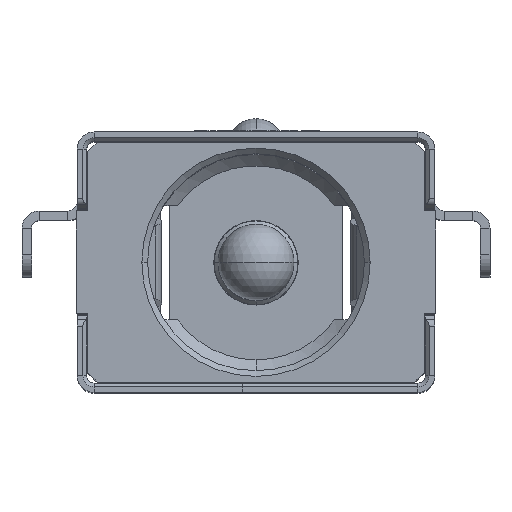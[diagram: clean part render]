
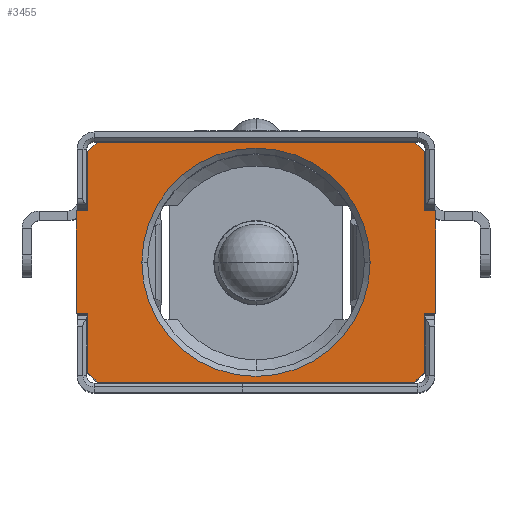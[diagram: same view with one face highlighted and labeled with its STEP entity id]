
A CAD part, top view. The second image highlights one B-rep face of the part: STEP entity #3455.
In plain terms, the highlighted planar face has unit normal (0, 0, 1).
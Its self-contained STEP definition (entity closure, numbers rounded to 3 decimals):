
#40 = ORIENTED_EDGE ( 'NONE', *, *, #15335, .T. ) ;
#94 = EDGE_CURVE ( 'NONE', #30638, #22297, #19277, .T. ) ;
#254 = VERTEX_POINT ( 'NONE', #4378 ) ;
#357 = LINE ( 'NONE', #20407, #6250 ) ;
#373 = LINE ( 'NONE', #10243, #12776 ) ;
#882 = DIRECTION ( 'NONE',  ( 0.707, 0.707, 0. ) ) ;
#982 = VERTEX_POINT ( 'NONE', #28700 ) ;
#987 = AXIS2_PLACEMENT_3D ( 'NONE', #3470, #11298, #21666 ) ;
#1904 = DIRECTION ( 'NONE',  ( 0., 1., 0. ) ) ;
#2126 = EDGE_LOOP ( 'NONE', ( #6789, #19782, #8268, #19825, #40, #32366, #32321, #19603, #28429, #18277, #29260, #10425, #30651, #3118, #8567, #9867 ) ) ;
#2374 = CARTESIAN_POINT ( 'NONE',  ( -4.725, 1.35, 14. ) ) ;
#2433 = EDGE_CURVE ( 'NONE', #25788, #18844, #21696, .T. ) ;
#2532 = EDGE_CURVE ( 'NONE', #31965, #2554, #9292, .T. ) ;
#2554 = VERTEX_POINT ( 'NONE', #33221 ) ;
#2932 = EDGE_CURVE ( 'NONE', #22374, #18844, #373, .T. ) ;
#3090 = CARTESIAN_POINT ( 'NONE',  ( 4.425, -1.35, 14. ) ) ;
#3118 = ORIENTED_EDGE ( 'NONE', *, *, #2433, .F. ) ;
#3455 = ADVANCED_FACE ( 'NONE', ( #5663, #13799 ), #5320, .T. ) ;
#3470 = CARTESIAN_POINT ( 'NONE',  ( 0., 0., 14. ) ) ;
#3512 = DIRECTION ( 'NONE',  ( 1., 0., 0. ) ) ;
#3612 = VECTOR ( 'NONE', #15708, 1000. ) ;
#3723 = VECTOR ( 'NONE', #26004, 1000. ) ;
#4005 = CARTESIAN_POINT ( 'NONE',  ( 0., 0., 14. ) ) ;
#4274 = DIRECTION ( 'NONE',  ( 0., 0., 1. ) ) ;
#4378 = CARTESIAN_POINT ( 'NONE',  ( 4.425, -2.9, 14. ) ) ;
#4568 = CARTESIAN_POINT ( 'NONE',  ( 4.425, 2.9, 14. ) ) ;
#4573 = EDGE_CURVE ( 'NONE', #16739, #32524, #28638, .T. ) ;
#4800 = CARTESIAN_POINT ( 'NONE',  ( -4.425, -2.9, 14. ) ) ;
#5002 = LINE ( 'NONE', #30649, #6223 ) ;
#5047 = CARTESIAN_POINT ( 'NONE',  ( -4.425, 1.35, 14. ) ) ;
#5054 = VERTEX_POINT ( 'NONE', #15587 ) ;
#5095 = CARTESIAN_POINT ( 'NONE',  ( 4.425, 1.35, 14. ) ) ;
#5320 = PLANE ( 'NONE',  #8480 ) ;
#5367 = CARTESIAN_POINT ( 'NONE',  ( 4.725, -1.35, 14. ) ) ;
#5663 = FACE_BOUND ( 'NONE', #7406, .T. ) ;
#6160 = DIRECTION ( 'NONE',  ( 1., 0., 0. ) ) ;
#6223 = VECTOR ( 'NONE', #10266, 1000. ) ;
#6241 = DIRECTION ( 'NONE',  ( 0.707, -0.707, 0. ) ) ;
#6250 = VECTOR ( 'NONE', #30943, 1000. ) ;
#6276 = AXIS2_PLACEMENT_3D ( 'NONE', #4005, #24743, #8966 ) ;
#6789 = ORIENTED_EDGE ( 'NONE', *, *, #33633, .T. ) ;
#7336 = VERTEX_POINT ( 'NONE', #12091 ) ;
#7406 = EDGE_LOOP ( 'NONE', ( #8770, #16741 ) ) ;
#7778 = VECTOR ( 'NONE', #1904, 1000. ) ;
#8268 = ORIENTED_EDGE ( 'NONE', *, *, #18388, .T. ) ;
#8480 = AXIS2_PLACEMENT_3D ( 'NONE', #9385, #4274, #6160 ) ;
#8567 = ORIENTED_EDGE ( 'NONE', *, *, #14643, .T. ) ;
#8770 = ORIENTED_EDGE ( 'NONE', *, *, #17867, .F. ) ;
#8966 = DIRECTION ( 'NONE',  ( -1., 0., 0. ) ) ;
#9051 = CARTESIAN_POINT ( 'NONE',  ( 4.725, 1.35, 14. ) ) ;
#9089 = VECTOR ( 'NONE', #10005, 1000. ) ;
#9292 = LINE ( 'NONE', #12492, #33289 ) ;
#9385 = CARTESIAN_POINT ( 'NONE',  ( 0., 0., 14. ) ) ;
#9491 = VECTOR ( 'NONE', #20427, 1000. ) ;
#9552 = CARTESIAN_POINT ( 'NONE',  ( 3., 0., 14. ) ) ;
#9568 = VERTEX_POINT ( 'NONE', #30703 ) ;
#9867 = ORIENTED_EDGE ( 'NONE', *, *, #22139, .F. ) ;
#10005 = DIRECTION ( 'NONE',  ( -0.707, 0.707, 0. ) ) ;
#10044 = CARTESIAN_POINT ( 'NONE',  ( -4.175, -3.15, 14. ) ) ;
#10243 = CARTESIAN_POINT ( 'NONE',  ( 4.425, 1.35, 14. ) ) ;
#10266 = DIRECTION ( 'NONE',  ( 1., 0., 0. ) ) ;
#10425 = ORIENTED_EDGE ( 'NONE', *, *, #10616, .T. ) ;
#10511 = VERTEX_POINT ( 'NONE', #4800 ) ;
#10616 = EDGE_CURVE ( 'NONE', #32524, #22374, #14990, .T. ) ;
#10702 = EDGE_CURVE ( 'NONE', #7336, #16739, #18561, .T. ) ;
#11298 = DIRECTION ( 'NONE',  ( 0., 0., 1. ) ) ;
#11953 = CARTESIAN_POINT ( 'NONE',  ( 4.425, -2.9, 14. ) ) ;
#12091 = CARTESIAN_POINT ( 'NONE',  ( 4.425, -1.35, 14. ) ) ;
#12139 = VERTEX_POINT ( 'NONE', #10044 ) ;
#12405 = EDGE_CURVE ( 'NONE', #12139, #10511, #15074, .T. ) ;
#12492 = CARTESIAN_POINT ( 'NONE',  ( -4.425, 1.35, 14. ) ) ;
#12724 = LINE ( 'NONE', #26804, #28422 ) ;
#12776 = VECTOR ( 'NONE', #31125, 1000. ) ;
#13124 = VECTOR ( 'NONE', #3512, 1000. ) ;
#13131 = DIRECTION ( 'NONE',  ( -1., 0., 0. ) ) ;
#13799 = FACE_OUTER_BOUND ( 'NONE', #2126, .T. ) ;
#14131 = CARTESIAN_POINT ( 'NONE',  ( -4.425, 2.9, 14. ) ) ;
#14209 = CARTESIAN_POINT ( 'NONE',  ( -3., 0., 14. ) ) ;
#14643 = EDGE_CURVE ( 'NONE', #25788, #19060, #12724, .T. ) ;
#14990 = LINE ( 'NONE', #26038, #19269 ) ;
#15074 = LINE ( 'NONE', #33272, #9089 ) ;
#15082 = CIRCLE ( 'NONE', #987, 3. ) ;
#15154 = LINE ( 'NONE', #22982, #9491 ) ;
#15335 = EDGE_CURVE ( 'NONE', #5054, #10511, #357, .T. ) ;
#15587 = CARTESIAN_POINT ( 'NONE',  ( -4.425, -1.35, 14. ) ) ;
#15708 = DIRECTION ( 'NONE',  ( 0., 1., 0. ) ) ;
#16456 = EDGE_CURVE ( 'NONE', #254, #9568, #28108, .T. ) ;
#16498 = EDGE_CURVE ( 'NONE', #28844, #5054, #5002, .T. ) ;
#16739 = VERTEX_POINT ( 'NONE', #17254 ) ;
#16741 = ORIENTED_EDGE ( 'NONE', *, *, #94, .F. ) ;
#16923 = LINE ( 'NONE', #26953, #13124 ) ;
#17254 = CARTESIAN_POINT ( 'NONE',  ( 4.725, -1.35, 14. ) ) ;
#17658 = VECTOR ( 'NONE', #17897, 1000. ) ;
#17867 = EDGE_CURVE ( 'NONE', #22297, #30638, #15082, .T. ) ;
#17897 = DIRECTION ( 'NONE',  ( -0.707, -0.707, 0. ) ) ;
#18277 = ORIENTED_EDGE ( 'NONE', *, *, #10702, .T. ) ;
#18388 = EDGE_CURVE ( 'NONE', #2554, #28844, #22617, .T. ) ;
#18561 = LINE ( 'NONE', #3090, #27949 ) ;
#18844 = VERTEX_POINT ( 'NONE', #4568 ) ;
#19060 = VERTEX_POINT ( 'NONE', #27138 ) ;
#19137 = LINE ( 'NONE', #11953, #7778 ) ;
#19269 = VECTOR ( 'NONE', #13131, 1000. ) ;
#19277 = CIRCLE ( 'NONE', #6276, 3. ) ;
#19603 = ORIENTED_EDGE ( 'NONE', *, *, #16456, .F. ) ;
#19782 = ORIENTED_EDGE ( 'NONE', *, *, #2532, .T. ) ;
#19825 = ORIENTED_EDGE ( 'NONE', *, *, #16498, .T. ) ;
#19995 = VECTOR ( 'NONE', #882, 1000. ) ;
#20407 = CARTESIAN_POINT ( 'NONE',  ( -4.425, -1.35, 14. ) ) ;
#20427 = DIRECTION ( 'NONE',  ( 0., -1., 0. ) ) ;
#21666 = DIRECTION ( 'NONE',  ( 1., 0., 0. ) ) ;
#21696 = LINE ( 'NONE', #29501, #29503 ) ;
#22139 = EDGE_CURVE ( 'NONE', #982, #19060, #24340, .T. ) ;
#22297 = VERTEX_POINT ( 'NONE', #9552 ) ;
#22374 = VERTEX_POINT ( 'NONE', #5095 ) ;
#22617 = LINE ( 'NONE', #2374, #3723 ) ;
#22982 = CARTESIAN_POINT ( 'NONE',  ( -4.425, 2.9, 14. ) ) ;
#24340 = LINE ( 'NONE', #14131, #19995 ) ;
#24743 = DIRECTION ( 'NONE',  ( 0., 0., 1. ) ) ;
#25646 = CARTESIAN_POINT ( 'NONE',  ( -4.725, -1.35, 14. ) ) ;
#25788 = VERTEX_POINT ( 'NONE', #28806 ) ;
#26004 = DIRECTION ( 'NONE',  ( 0., -1., 0. ) ) ;
#26038 = CARTESIAN_POINT ( 'NONE',  ( 4.725, 1.35, 14. ) ) ;
#26804 = CARTESIAN_POINT ( 'NONE',  ( 4.175, 3.15, 14. ) ) ;
#26953 = CARTESIAN_POINT ( 'NONE',  ( -4.175, -3.15, 14. ) ) ;
#27138 = CARTESIAN_POINT ( 'NONE',  ( -4.175, 3.15, 14. ) ) ;
#27949 = VECTOR ( 'NONE', #29416, 1000. ) ;
#28108 = LINE ( 'NONE', #33208, #17658 ) ;
#28422 = VECTOR ( 'NONE', #31569, 1000. ) ;
#28429 = ORIENTED_EDGE ( 'NONE', *, *, #32220, .T. ) ;
#28638 = LINE ( 'NONE', #5367, #3612 ) ;
#28700 = CARTESIAN_POINT ( 'NONE',  ( -4.425, 2.9, 14. ) ) ;
#28806 = CARTESIAN_POINT ( 'NONE',  ( 4.175, 3.15, 14. ) ) ;
#28844 = VERTEX_POINT ( 'NONE', #25646 ) ;
#29260 = ORIENTED_EDGE ( 'NONE', *, *, #4573, .T. ) ;
#29416 = DIRECTION ( 'NONE',  ( 1., 0., 0. ) ) ;
#29501 = CARTESIAN_POINT ( 'NONE',  ( 4.175, 3.15, 14. ) ) ;
#29503 = VECTOR ( 'NONE', #6241, 1000. ) ;
#30497 = EDGE_CURVE ( 'NONE', #12139, #9568, #16923, .T. ) ;
#30638 = VERTEX_POINT ( 'NONE', #14209 ) ;
#30649 = CARTESIAN_POINT ( 'NONE',  ( -4.725, -1.35, 14. ) ) ;
#30651 = ORIENTED_EDGE ( 'NONE', *, *, #2932, .T. ) ;
#30657 = DIRECTION ( 'NONE',  ( -1., 0., 0. ) ) ;
#30703 = CARTESIAN_POINT ( 'NONE',  ( 4.175, -3.15, 14. ) ) ;
#30943 = DIRECTION ( 'NONE',  ( 0., -1., 0. ) ) ;
#31125 = DIRECTION ( 'NONE',  ( 0., 1., 0. ) ) ;
#31569 = DIRECTION ( 'NONE',  ( -1., 0., 0. ) ) ;
#31965 = VERTEX_POINT ( 'NONE', #5047 ) ;
#32220 = EDGE_CURVE ( 'NONE', #254, #7336, #19137, .T. ) ;
#32321 = ORIENTED_EDGE ( 'NONE', *, *, #30497, .T. ) ;
#32366 = ORIENTED_EDGE ( 'NONE', *, *, #12405, .F. ) ;
#32524 = VERTEX_POINT ( 'NONE', #9051 ) ;
#33208 = CARTESIAN_POINT ( 'NONE',  ( 4.425, -2.9, 14. ) ) ;
#33221 = CARTESIAN_POINT ( 'NONE',  ( -4.725, 1.35, 14. ) ) ;
#33272 = CARTESIAN_POINT ( 'NONE',  ( -4.175, -3.15, 14. ) ) ;
#33289 = VECTOR ( 'NONE', #30657, 1000. ) ;
#33633 = EDGE_CURVE ( 'NONE', #982, #31965, #15154, .T. ) ;
